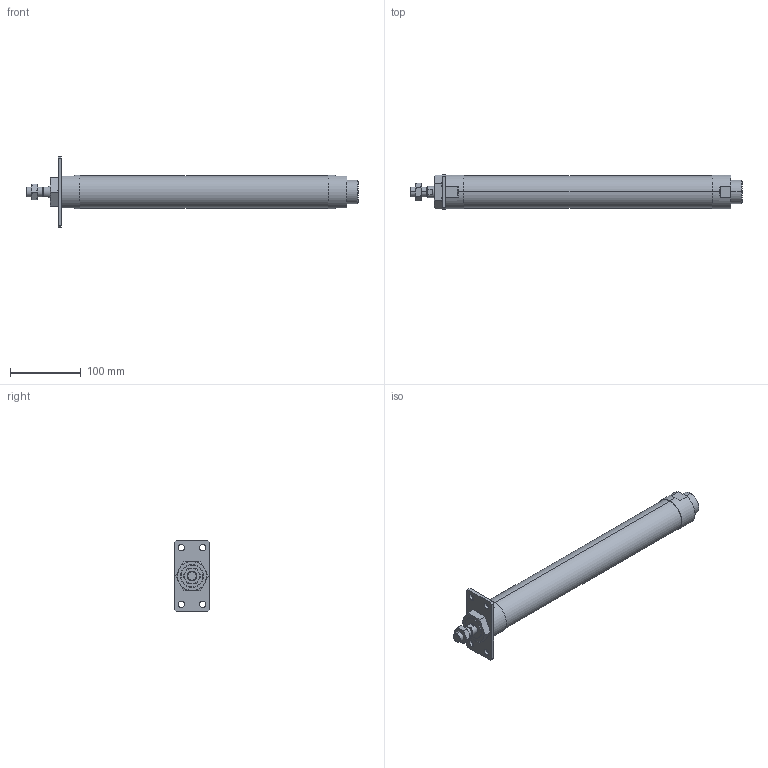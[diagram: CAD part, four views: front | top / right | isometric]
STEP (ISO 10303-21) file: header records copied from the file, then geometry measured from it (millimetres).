
FILE_DESCRIPTION (( 'STEP AP203' ), '1' );
FILE_NAME ('J#2-40-300-A.STEP', '2016-03-08T08:09:11', ( '' ), ( '' ), 'SwSTEP 2.0', 'SolidWorks 2014', '' );
FILE_SCHEMA (( 'CONFIG_CONTROL_DESIGN' ));
Length unit declared in the file: millimetre
Products named in the file (5): J#2-40-300-A; J#2-40-300; J#2-40-A
Assembly tree (4 placements, depth 2):
  J#2-40-300-A
    J#2-40-300
    (unnamed)
    (unnamed)
    J#2-40-A
Bounding box: 469 x 50 x 100 mm (x, y, z)
Volume: 733839.7 mm3; surface area: 83844.7 mm2
Topology: 4 solids, 4 shells, 114 faces, 264 edges, 161 vertices
Faces by surface type: plane 43, cylinder 32, torus 24, cone 15
Entity records: 4198 total; most frequent: CARTESIAN_POINT 1133, DIRECTION 537, ORIENTED_EDGE 520, EDGE_CURVE 260, AXIS2_PLACEMENT_3D 219, VERTEX_POINT 161, EDGE_LOOP 135, FACE_OUTER_BOUND 114
